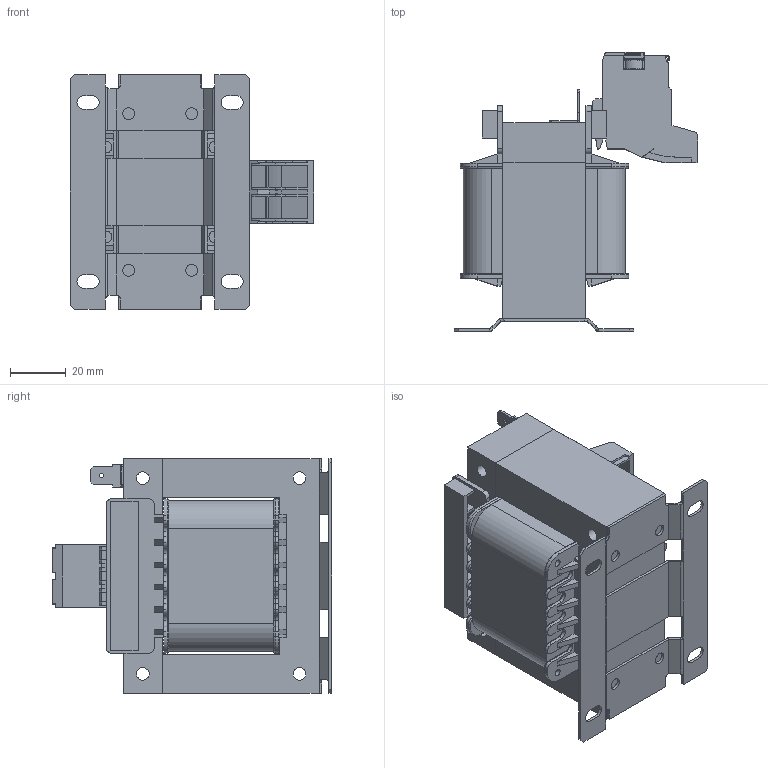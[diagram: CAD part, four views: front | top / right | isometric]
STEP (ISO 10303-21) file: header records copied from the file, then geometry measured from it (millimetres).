
FILE_DESCRIPTION (( 'STEP AP214' ), '1' );
FILE_NAME ('PCO-020.STEP', '2015-04-28T12:28:20', ( 'EDV' ), ( 'Microsoft' ), 'SwSTEP 2.0', 'SolidWorks 2014', '' );
FILE_SCHEMA (( 'AUTOMOTIVE_DESIGN' ));
Length unit declared in the file: millimetre
Products named in the file (7): PCO-020; +2220-0010; BTK 10_2 +2202-0023; Fussplatte EI84-29; Wickel EI84_29,5-1MS; EI84-29,5-1MS; EI84-29,5
Assembly tree (6 placements, depth 2):
  PCO-020
    EI84-29,5
    EI84-29,5-1MS
    Wickel EI84_29,5-1MS
    Fussplatte EI84-29
    BTK 10_2 +2202-0023
    +2220-0010
Bounding box: 86.95 x 99.86 x 84 mm (x, y, z)
Volume: 254419.9 mm3; surface area: 95145.1 mm2
Topology: 7 solids, 7 shells, 2879 faces, 7936 edges, 5118 vertices
Faces by surface type: plane 2205, cylinder 439, bspline 135, torus 100
Full cylindrical faces by diameter (mm): 1.5 x1, 2.5 x4, 3.242 x1, 4.2 x4, 4.5 x4, 4.805 x1, 5.205 x1
Entity records: 97894 total; most frequent: CARTESIAN_POINT 24543, ORIENTED_EDGE 15798, DIRECTION 13771, EDGE_CURVE 7899, LINE 6613, VECTOR 6613, VERTEX_POINT 5118, AXIS2_PLACEMENT_3D 3579
